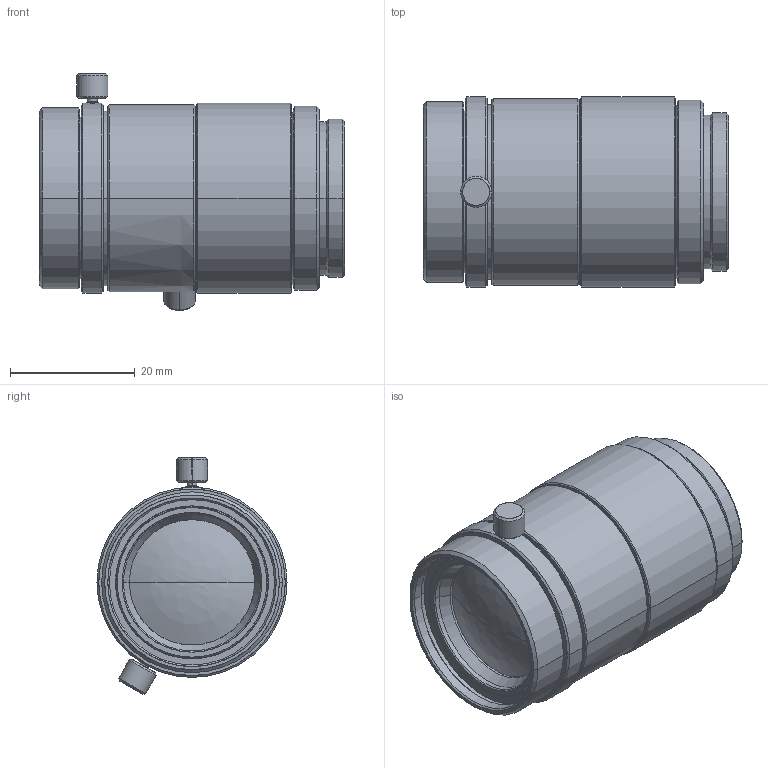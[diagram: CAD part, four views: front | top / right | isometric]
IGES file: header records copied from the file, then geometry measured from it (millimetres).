
Start section: SolidWorks IGES file using analytic representation for surfaces
Global section: file name: C:\Users\tsuji_vst\Documents\【図面】\_3D\00 VST\VS-LDA(APL)\LDA50\VS-LDA50.IGS; native system: SolidWorks 2016; preprocessor: SolidWorks 2016; author: tsuji_vst; date: 161202.170235; units: millimetre
Bounding box: 49 x 30.5 x 37.98 mm (x, y, z)
Surface area: 8277 mm2 (no closed solid volume)
Topology: 0 solids, 0 shells, 142 faces, 2322 edges, 2320 vertices
Faces by surface type: revolution 119, bspline 23
